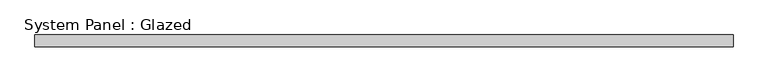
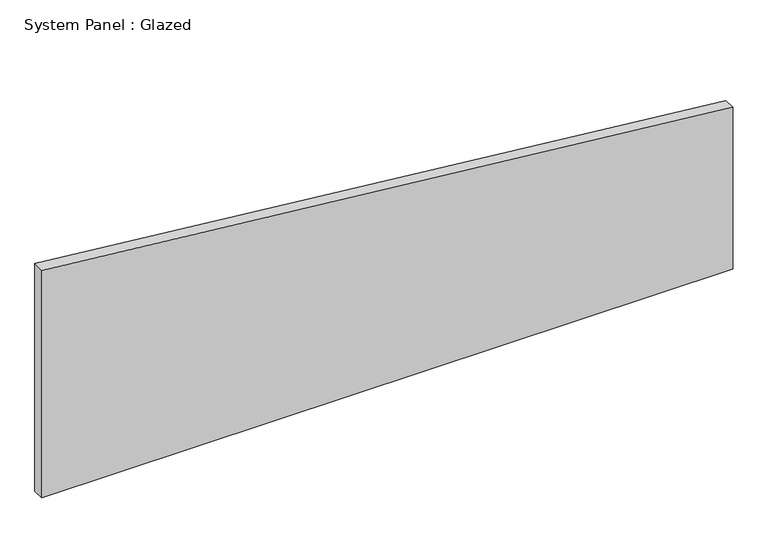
"""IFC4 building model written with IfcOpenShell, lengths in millimetres: plate geometry, System Panel : Glazed."""

from ifc_helpers import new_model, si_unit, frame, origin, place, context, project, spatial, polyline, outline, extrude, source, transform, mapped, element, save


def system_panel_glazed_721aa4a1(model_context):
    return source(origin(), model_context, "Body", "SweptSolid", [
        extrude(outline(polyline([(0.0, -735.8695652), (0.0, 735.8695652), (364.5651208, 735.8695652), (512.5480995, -735.8695652), (0.0, -735.8695652)])), frame((0.0, 24.5, 0.0), z_axis=(0.0, 1.0, 0.0), x_axis=(0.0, 0.0, 1.0)), (0.0, 0.0, 1.0), 25.0),
    ])


if __name__ == "__main__":
    model = new_model("IFC4")
    model_context = context("Model", 3, world=origin())
    ifc_project = project(units=[si_unit("LENGTHUNIT", "METRE", prefix="MILLI")], contexts=[model_context])
    site = spatial("IfcSite", under=ifc_project)
    building = spatial("IfcBuilding", under=site)
    placement = place(None, origin())
    system_panel_glazed_shape = system_panel_glazed_721aa4a1(model_context)
    element("IfcPlate", 1, ObjectType="System Panel : Glazed", at=placement, inside=building, context=model_context, shape_type="MappedRepresentation", body=[
        mapped(system_panel_glazed_shape, transform((0.0, 0.0, 0.0), x_axis=(1.0, 0.0, 0.0), y_axis=(0.0, 1.0, 0.0), z_axis=(0.0, 0.0, 1.0))),
    ])
    save(model, "model.ifc")
